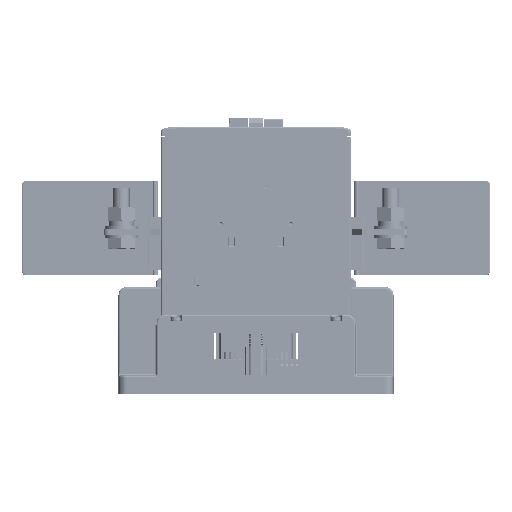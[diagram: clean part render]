
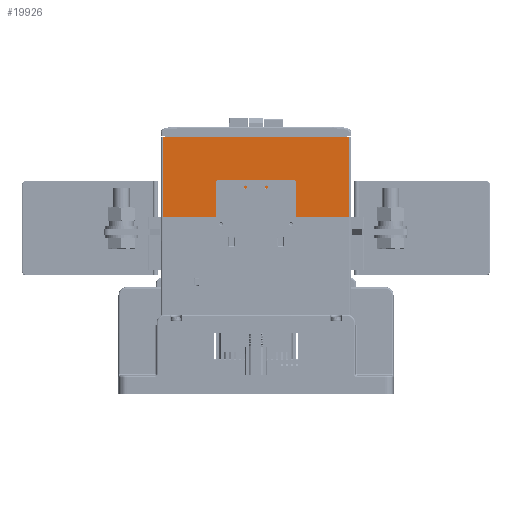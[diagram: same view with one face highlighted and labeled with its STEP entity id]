
A CAD part, left-side view. The second image highlights one B-rep face of the part: STEP entity #19926.
In plain terms, the highlighted planar face has unit normal (-1, 0, 0).
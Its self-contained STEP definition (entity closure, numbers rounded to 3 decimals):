
#6324 = CARTESIAN_POINT ( 'NONE',  ( -50., 2., -12.75 ) ) ;
#8748 = EDGE_CURVE ( 'NONE', #470214, #22922, #152696, .T. ) ;
#13297 = LINE ( 'NONE', #404249, #159294 ) ;
#19926 = ADVANCED_FACE ( 'NONE', ( #77738 ), #279729, .T. ) ;
#22922 = VERTEX_POINT ( 'NONE', #329800 ) ;
#29238 = CARTESIAN_POINT ( 'NONE',  ( -50., -1.7, 56. ) ) ;
#40940 = ORIENTED_EDGE ( 'NONE', *, *, #340180, .T. ) ;
#45878 = EDGE_CURVE ( 'NONE', #219859, #58217, #468894, .T. ) ;
#54645 = ORIENTED_EDGE ( 'NONE', *, *, #199665, .F. ) ;
#58217 = VERTEX_POINT ( 'NONE', #29238 ) ;
#71243 = DIRECTION ( 'NONE',  ( 0., 0., 1. ) ) ;
#71339 = CARTESIAN_POINT ( 'NONE',  ( -50., -1.7, 14.75 ) ) ;
#77738 = FACE_OUTER_BOUND ( 'NONE', #184644, .T. ) ;
#78707 = DIRECTION ( 'NONE',  ( 0., 1., 0. ) ) ;
#79503 = VERTEX_POINT ( 'NONE', #419325 ) ;
#83283 = ORIENTED_EDGE ( 'NONE', *, *, #45878, .T. ) ;
#89876 = CARTESIAN_POINT ( 'NONE',  ( -50., 1., 12.75 ) ) ;
#98192 = DIRECTION ( 'NONE',  ( 0., 0., 1. ) ) ;
#130561 = DIRECTION ( 'NONE',  ( 0., -1., 0. ) ) ;
#132959 = AXIS2_PLACEMENT_3D ( 'NONE', #89876, #401037, #603124 ) ;
#135269 = ORIENTED_EDGE ( 'NONE', *, *, #631883, .T. ) ;
#141886 = ORIENTED_EDGE ( 'NONE', *, *, #610377, .T. ) ;
#146031 = LINE ( 'NONE', #500401, #386350 ) ;
#152332 = DIRECTION ( 'NONE',  ( -1., 0., 0. ) ) ;
#152696 = LINE ( 'NONE', #560031, #604621 ) ;
#153154 = ORIENTED_EDGE ( 'NONE', *, *, #208227, .F. ) ;
#159294 = VECTOR ( 'NONE', #301592, 1000. ) ;
#162153 = EDGE_CURVE ( 'NONE', #58217, #470214, #146031, .T. ) ;
#168541 = CARTESIAN_POINT ( 'NONE',  ( -50., 2., 12.75 ) ) ;
#184644 = EDGE_LOOP ( 'NONE', ( #341196, #415591, #54645, #620315, #153154, #135269, #83283, #533053, #601446, #40940, #141886, #409801 ) ) ;
#185905 = DIRECTION ( 'NONE',  ( 0., 1., 0. ) ) ;
#199665 = EDGE_CURVE ( 'NONE', #570634, #259635, #469020, .T. ) ;
#208227 = EDGE_CURVE ( 'NONE', #79503, #439485, #270307, .T. ) ;
#209624 = AXIS2_PLACEMENT_3D ( 'NONE', #581111, #590859, #130561 ) ;
#219859 = VERTEX_POINT ( 'NONE', #536139 ) ;
#226425 = CARTESIAN_POINT ( 'NONE',  ( -50., 1., -13.75 ) ) ;
#227601 = VERTEX_POINT ( 'NONE', #468346 ) ;
#236242 = CARTESIAN_POINT ( 'NONE',  ( -50., -0.7, -13.75 ) ) ;
#259635 = VERTEX_POINT ( 'NONE', #6324 ) ;
#266737 = DIRECTION ( 'NONE',  ( -1., 0., 0. ) ) ;
#270307 = LINE ( 'NONE', #518777, #482976 ) ;
#279729 = PLANE ( 'NONE',  #576301 ) ;
#283776 = CARTESIAN_POINT ( 'NONE',  ( -50., 1., 13.75 ) ) ;
#288589 = VERTEX_POINT ( 'NONE', #236242 ) ;
#293632 = CARTESIAN_POINT ( 'NONE',  ( -50., -1.7, -56. ) ) ;
#295746 = VERTEX_POINT ( 'NONE', #470823 ) ;
#301592 = DIRECTION ( 'NONE',  ( 0., -1., 0. ) ) ;
#307627 = CIRCLE ( 'NONE', #508600, 1. ) ;
#316955 = VECTOR ( 'NONE', #98192, 1000. ) ;
#323023 = DIRECTION ( 'NONE',  ( 0., 0., 1. ) ) ;
#329800 = CARTESIAN_POINT ( 'NONE',  ( -50., 46.4, -56. ) ) ;
#330379 = LINE ( 'NONE', #429787, #483484 ) ;
#331843 = EDGE_CURVE ( 'NONE', #295746, #288589, #548178, .T. ) ;
#340180 = EDGE_CURVE ( 'NONE', #22922, #227601, #13297, .T. ) ;
#341196 = ORIENTED_EDGE ( 'NONE', *, *, #623409, .T. ) ;
#354378 = DIRECTION ( 'NONE',  ( 1., 0., 0. ) ) ;
#359978 = VERTEX_POINT ( 'NONE', #226425 ) ;
#369518 = VECTOR ( 'NONE', #605066, 1000. ) ;
#386350 = VECTOR ( 'NONE', #185905, 1000. ) ;
#401037 = DIRECTION ( 'NONE',  ( 1., 0., 0. ) ) ;
#402969 = CARTESIAN_POINT ( 'NONE',  ( -50., 2., 12.75 ) ) ;
#404249 = CARTESIAN_POINT ( 'NONE',  ( -50., 46.4, -56. ) ) ;
#409801 = ORIENTED_EDGE ( 'NONE', *, *, #331843, .T. ) ;
#415591 = ORIENTED_EDGE ( 'NONE', *, *, #537707, .T. ) ;
#415798 = CARTESIAN_POINT ( 'NONE',  ( -50., 46.4, 57. ) ) ;
#419325 = CARTESIAN_POINT ( 'NONE',  ( -50., -0.7, 13.75 ) ) ;
#425969 = EDGE_CURVE ( 'NONE', #570634, #439485, #619624, .T. ) ;
#429787 = CARTESIAN_POINT ( 'NONE',  ( -50., -0.7, -13.75 ) ) ;
#439485 = VERTEX_POINT ( 'NONE', #283776 ) ;
#456983 = CARTESIAN_POINT ( 'NONE',  ( -50., -0.7, 14.75 ) ) ;
#468346 = CARTESIAN_POINT ( 'NONE',  ( -50., -1.7, -56. ) ) ;
#468894 = LINE ( 'NONE', #71339, #641713 ) ;
#469020 = LINE ( 'NONE', #402969, #369518 ) ;
#470214 = VERTEX_POINT ( 'NONE', #582389 ) ;
#470823 = CARTESIAN_POINT ( 'NONE',  ( -50., -1.7, -14.75 ) ) ;
#472351 = DIRECTION ( 'NONE',  ( 0., 1., 0. ) ) ;
#482976 = VECTOR ( 'NONE', #472351, 1000. ) ;
#483484 = VECTOR ( 'NONE', #78707, 1000. ) ;
#500401 = CARTESIAN_POINT ( 'NONE',  ( -50., -1.7, 56. ) ) ;
#508600 = AXIS2_PLACEMENT_3D ( 'NONE', #456983, #152332, #559671 ) ;
#518777 = CARTESIAN_POINT ( 'NONE',  ( -50., -0.7, 13.75 ) ) ;
#522243 = CARTESIAN_POINT ( 'NONE',  ( -50., 1., -12.75 ) ) ;
#526623 = CIRCLE ( 'NONE', #600885, 1. ) ;
#533053 = ORIENTED_EDGE ( 'NONE', *, *, #162153, .T. ) ;
#536139 = CARTESIAN_POINT ( 'NONE',  ( -50., -1.7, 14.75 ) ) ;
#537707 = EDGE_CURVE ( 'NONE', #359978, #259635, #526623, .T. ) ;
#548178 = CIRCLE ( 'NONE', #209624, 1. ) ;
#559671 = DIRECTION ( 'NONE',  ( 0., 0., -1. ) ) ;
#560031 = CARTESIAN_POINT ( 'NONE',  ( -50., 46.4, 56. ) ) ;
#566580 = DIRECTION ( 'NONE',  ( 0., 0., -1. ) ) ;
#570634 = VERTEX_POINT ( 'NONE', #168541 ) ;
#576301 = AXIS2_PLACEMENT_3D ( 'NONE', #415798, #266737, #71243 ) ;
#581111 = CARTESIAN_POINT ( 'NONE',  ( -50., -0.7, -14.75 ) ) ;
#582389 = CARTESIAN_POINT ( 'NONE',  ( -50., 46.4, 56. ) ) ;
#590859 = DIRECTION ( 'NONE',  ( -1., 0., 0. ) ) ;
#600885 = AXIS2_PLACEMENT_3D ( 'NONE', #522243, #354378, #628187 ) ;
#601446 = ORIENTED_EDGE ( 'NONE', *, *, #8748, .T. ) ;
#603124 = DIRECTION ( 'NONE',  ( 0., 1., 0. ) ) ;
#604621 = VECTOR ( 'NONE', #566580, 1000. ) ;
#605066 = DIRECTION ( 'NONE',  ( 0., 0., -1. ) ) ;
#610377 = EDGE_CURVE ( 'NONE', #227601, #295746, #654582, .T. ) ;
#619624 = CIRCLE ( 'NONE', #132959, 1. ) ;
#620315 = ORIENTED_EDGE ( 'NONE', *, *, #425969, .T. ) ;
#623409 = EDGE_CURVE ( 'NONE', #288589, #359978, #330379, .T. ) ;
#628187 = DIRECTION ( 'NONE',  ( 0., 0., -1. ) ) ;
#631883 = EDGE_CURVE ( 'NONE', #79503, #219859, #307627, .T. ) ;
#641713 = VECTOR ( 'NONE', #323023, 1000. ) ;
#654582 = LINE ( 'NONE', #293632, #316955 ) ;
